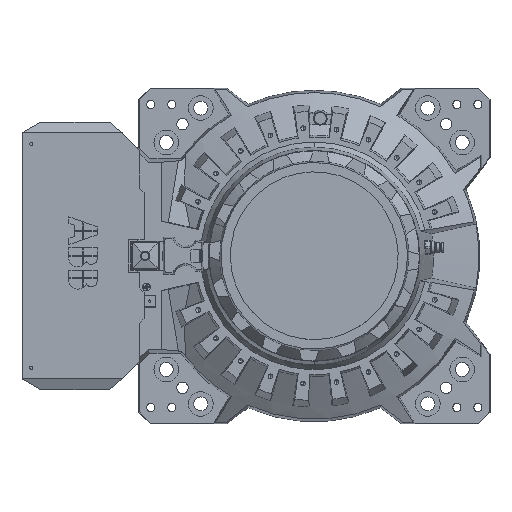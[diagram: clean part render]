
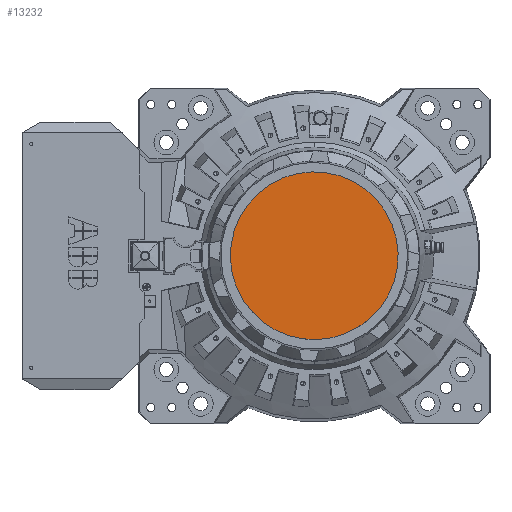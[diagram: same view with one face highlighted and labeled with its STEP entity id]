
A CAD part, top view. The second image highlights one B-rep face of the part: STEP entity #13232.
In plain terms, the highlighted planar face has unit normal (0, 0, 1).
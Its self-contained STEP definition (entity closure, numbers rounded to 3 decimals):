
#1213 = AXIS2_PLACEMENT_3D ( 'NONE', #16651, #16661, #16663 ) ;
#1753 = FACE_OUTER_BOUND ( 'NONE', #31368, .T. ) ;
#3646 = ORIENTED_EDGE ( 'NONE', *, *, #33326, .F. ) ;
#3647 = ORIENTED_EDGE ( 'NONE', *, *, #14546, .F. ) ;
#4723 = CARTESIAN_POINT ( 'NONE',  ( 171.292, -55.309, 373.5 ) ) ;
#4745 = CARTESIAN_POINT ( 'NONE',  ( -171.292, 55.309, 373.5 ) ) ;
#13232 = ADVANCED_FACE ( 'NONE', ( #1753 ), #16656, .T. ) ;
#14546 = EDGE_CURVE ( 'NONE', #29831, #29809, #20048, .T. ) ;
#16651 = CARTESIAN_POINT ( 'NONE',  ( -171.292, 55.309, 373.5 ) ) ;
#16656 = PLANE ( 'NONE',  #1213 ) ;
#16661 = DIRECTION ( 'NONE',  ( 0., 0., 1. ) ) ;
#16663 = DIRECTION ( 'NONE',  ( 0.952, -0.307, 0. ) ) ;
#20048 = CIRCLE ( 'NONE', #32845, 180. ) ;
#23949 = CARTESIAN_POINT ( 'NONE',  ( 0., 0., 373.5 ) ) ;
#23950 = DIRECTION ( 'NONE',  ( 0., 0., -1. ) ) ;
#23951 = DIRECTION ( 'NONE',  ( -0.952, 0.307, 0. ) ) ;
#29434 = CIRCLE ( 'NONE', #33177, 180. ) ;
#29809 = VERTEX_POINT ( 'NONE', #4723 ) ;
#29831 = VERTEX_POINT ( 'NONE', #4745 ) ;
#31368 = EDGE_LOOP ( 'NONE', ( #3647, #3646 ) ) ;
#32331 = CARTESIAN_POINT ( 'NONE',  ( 0., 0., 373.5 ) ) ;
#32332 = DIRECTION ( 'NONE',  ( 0., 0., -1. ) ) ;
#32333 = DIRECTION ( 'NONE',  ( -0.952, 0.307, 0. ) ) ;
#32845 = AXIS2_PLACEMENT_3D ( 'NONE', #23949, #23950, #23951 ) ;
#33177 = AXIS2_PLACEMENT_3D ( 'NONE', #32331, #32332, #32333 ) ;
#33326 = EDGE_CURVE ( 'NONE', #29809, #29831, #29434, .T. ) ;
